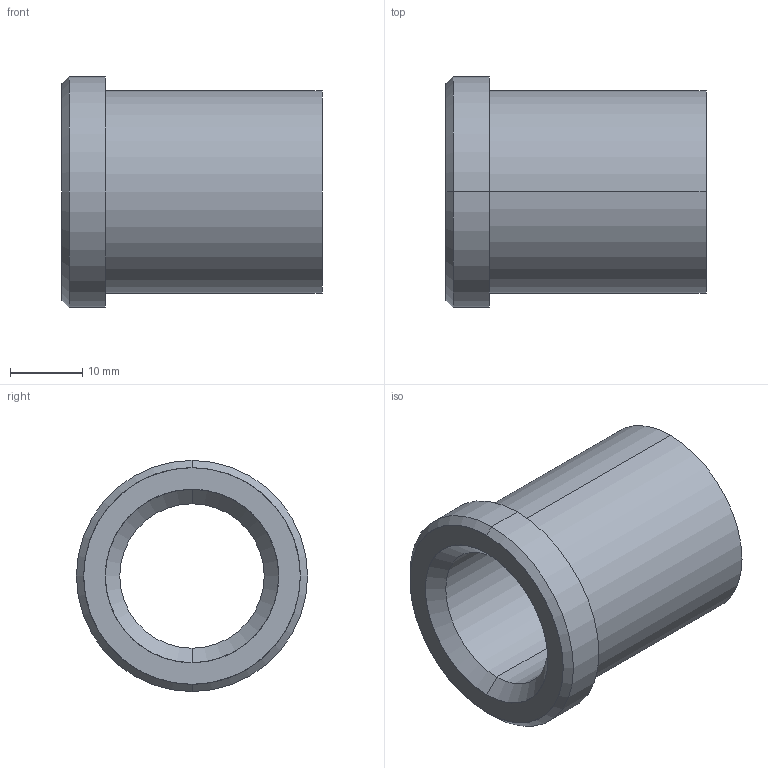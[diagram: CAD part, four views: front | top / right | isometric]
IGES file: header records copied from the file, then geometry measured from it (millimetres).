
Start section: START RECORD GO HERE.
Global section: file name: 353-20X36.igs; native system: DASSAULT SYSTEMES CATIA V5 R20 - www.3ds.com; preprocessor: CATIA Version 5 Release 20 ; author: Utente; organization: NB04-ASUS; date: 20210511.165042; units: millimetre
Bounding box: 36 x 32 x 32 mm (x, y, z)
Surface area: 6316.2 mm2 (no closed solid volume)
Topology: 0 solids, 0 shells, 15 faces, 96 edges, 96 vertices
Faces by surface type: revolution 12, plane 3
